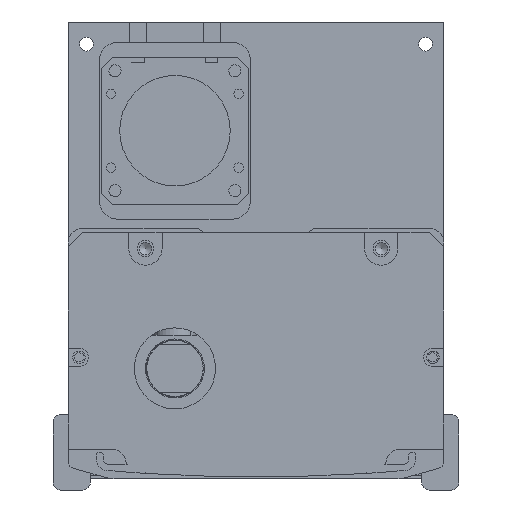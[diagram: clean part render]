
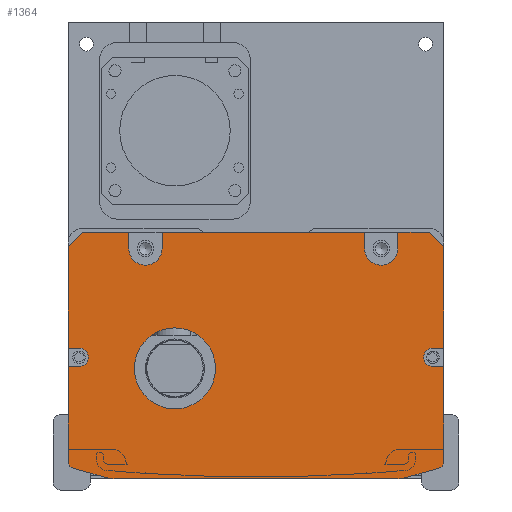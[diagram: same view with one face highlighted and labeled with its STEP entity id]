
A CAD part, front view. The second image highlights one B-rep face of the part: STEP entity #1364.
In plain terms, the highlighted planar face has unit normal (0, -1, 0).
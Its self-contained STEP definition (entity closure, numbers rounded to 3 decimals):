
#1364=ADVANCED_FACE('',(#4036,#4037),#2163,.F.);
#2163=PLANE('',#13208);
#2555=LINE('',#18918,#3317);
#2556=LINE('',#18921,#3318);
#2557=LINE('',#18923,#3319);
#2558=LINE('',#18925,#3320);
#2559=LINE('',#18929,#3321);
#2560=LINE('',#18931,#3322);
#2561=LINE('',#18933,#3323);
#2562=LINE('',#18937,#3324);
#2563=LINE('',#18939,#3325);
#2564=LINE('',#18941,#3326);
#2565=LINE('',#18943,#3327);
#2566=LINE('',#18945,#3328);
#2567=LINE('',#18949,#3329);
#2568=LINE('',#18951,#3330);
#2569=LINE('',#18955,#3331);
#2570=LINE('',#18959,#3332);
#2571=LINE('',#18963,#3333);
#2572=LINE('',#18967,#3334);
#2573=LINE('',#18969,#3335);
#2574=LINE('',#18973,#3336);
#3317=VECTOR('',#14979,1.);
#3318=VECTOR('',#14980,1.);
#3319=VECTOR('',#14981,1.);
#3320=VECTOR('',#14982,1.);
#3321=VECTOR('',#14985,1.);
#3322=VECTOR('',#14986,1.);
#3323=VECTOR('',#14987,1.);
#3324=VECTOR('',#14990,1.);
#3325=VECTOR('',#14991,1.);
#3326=VECTOR('',#14992,1.);
#3327=VECTOR('',#14993,1.);
#3328=VECTOR('',#14994,1.);
#3329=VECTOR('',#14997,1.);
#3330=VECTOR('',#14998,1.);
#3331=VECTOR('',#15001,1.);
#3332=VECTOR('',#15004,1.);
#3333=VECTOR('',#15007,1.);
#3334=VECTOR('',#15010,1.);
#3335=VECTOR('',#15011,1.);
#3336=VECTOR('',#15014,1.);
#4036=FACE_BOUND('',#4736,.T.);
#4037=FACE_BOUND('',#4737,.T.);
#4736=EDGE_LOOP('',(#6051,#6052,#6053,#6054,#6055,#6056,#6057,#6058,#6059,
#6060,#6061,#6062,#6063,#6064,#6065,#6066,#6067,#6068,#6069,#6070,#6071,
#6072,#6073,#6074,#6075,#6076,#6077,#6078));
#4737=EDGE_LOOP('',(#6079));
#6051=ORIENTED_EDGE('',*,*,#10779,.T.);
#6052=ORIENTED_EDGE('',*,*,#10780,.T.);
#6053=ORIENTED_EDGE('',*,*,#10781,.T.);
#6054=ORIENTED_EDGE('',*,*,#10782,.F.);
#6055=ORIENTED_EDGE('',*,*,#10783,.T.);
#6056=ORIENTED_EDGE('',*,*,#10784,.F.);
#6057=ORIENTED_EDGE('',*,*,#10785,.T.);
#6058=ORIENTED_EDGE('',*,*,#10786,.F.);
#6059=ORIENTED_EDGE('',*,*,#10787,.T.);
#6060=ORIENTED_EDGE('',*,*,#10788,.F.);
#6061=ORIENTED_EDGE('',*,*,#10789,.T.);
#6062=ORIENTED_EDGE('',*,*,#10790,.T.);
#6063=ORIENTED_EDGE('',*,*,#10791,.T.);
#6064=ORIENTED_EDGE('',*,*,#10792,.T.);
#6065=ORIENTED_EDGE('',*,*,#10793,.T.);
#6066=ORIENTED_EDGE('',*,*,#10794,.T.);
#6067=ORIENTED_EDGE('',*,*,#10795,.T.);
#6068=ORIENTED_EDGE('',*,*,#10796,.T.);
#6069=ORIENTED_EDGE('',*,*,#10797,.T.);
#6070=ORIENTED_EDGE('',*,*,#10798,.T.);
#6071=ORIENTED_EDGE('',*,*,#10799,.T.);
#6072=ORIENTED_EDGE('',*,*,#10800,.T.);
#6073=ORIENTED_EDGE('',*,*,#10801,.T.);
#6074=ORIENTED_EDGE('',*,*,#10802,.T.);
#6075=ORIENTED_EDGE('',*,*,#10803,.T.);
#6076=ORIENTED_EDGE('',*,*,#10804,.T.);
#6077=ORIENTED_EDGE('',*,*,#10805,.T.);
#6078=ORIENTED_EDGE('',*,*,#10806,.T.);
#6079=ORIENTED_EDGE('',*,*,#10807,.T.);
#9518=VERTEX_POINT('',#18919);
#9519=VERTEX_POINT('',#18920);
#9520=VERTEX_POINT('',#18922);
#9521=VERTEX_POINT('',#18924);
#9522=VERTEX_POINT('',#18926);
#9523=VERTEX_POINT('',#18928);
#9524=VERTEX_POINT('',#18930);
#9525=VERTEX_POINT('',#18932);
#9526=VERTEX_POINT('',#18934);
#9527=VERTEX_POINT('',#18936);
#9528=VERTEX_POINT('',#18938);
#9529=VERTEX_POINT('',#18940);
#9530=VERTEX_POINT('',#18942);
#9531=VERTEX_POINT('',#18944);
#9532=VERTEX_POINT('',#18946);
#9533=VERTEX_POINT('',#18948);
#9534=VERTEX_POINT('',#18950);
#9535=VERTEX_POINT('',#18952);
#9536=VERTEX_POINT('',#18954);
#9537=VERTEX_POINT('',#18956);
#9538=VERTEX_POINT('',#18958);
#9539=VERTEX_POINT('',#18960);
#9540=VERTEX_POINT('',#18962);
#9541=VERTEX_POINT('',#18964);
#9542=VERTEX_POINT('',#18966);
#9543=VERTEX_POINT('',#18968);
#9544=VERTEX_POINT('',#18970);
#9545=VERTEX_POINT('',#18972);
#9546=VERTEX_POINT('',#18975);
#10779=EDGE_CURVE('',#9518,#9519,#2555,.T.);
#10780=EDGE_CURVE('',#9519,#9520,#2556,.T.);
#10781=EDGE_CURVE('',#9520,#9521,#2557,.T.);
#10782=EDGE_CURVE('',#9522,#9521,#2558,.T.);
#10783=EDGE_CURVE('',#9522,#9523,#12418,.T.);
#10784=EDGE_CURVE('',#9524,#9523,#2559,.T.);
#10785=EDGE_CURVE('',#9524,#9525,#2560,.T.);
#10786=EDGE_CURVE('',#9526,#9525,#2561,.T.);
#10787=EDGE_CURVE('',#9526,#9527,#12419,.T.);
#10788=EDGE_CURVE('',#9528,#9527,#2562,.T.);
#10789=EDGE_CURVE('',#9528,#9529,#2563,.T.);
#10790=EDGE_CURVE('',#9529,#9530,#2564,.T.);
#10791=EDGE_CURVE('',#9530,#9531,#2565,.T.);
#10792=EDGE_CURVE('',#9531,#9532,#2566,.T.);
#10793=EDGE_CURVE('',#9532,#9533,#12420,.T.);
#10794=EDGE_CURVE('',#9533,#9534,#2567,.T.);
#10795=EDGE_CURVE('',#9534,#9535,#2568,.T.);
#10796=EDGE_CURVE('',#9535,#9536,#12421,.T.);
#10797=EDGE_CURVE('',#9536,#9537,#2569,.T.);
#10798=EDGE_CURVE('',#9537,#9538,#12422,.T.);
#10799=EDGE_CURVE('',#9538,#9539,#2570,.T.);
#10800=EDGE_CURVE('',#9539,#9540,#12423,.T.);
#10801=EDGE_CURVE('',#9540,#9541,#2571,.T.);
#10802=EDGE_CURVE('',#9541,#9542,#12424,.T.);
#10803=EDGE_CURVE('',#9542,#9543,#2572,.T.);
#10804=EDGE_CURVE('',#9543,#9544,#2573,.T.);
#10805=EDGE_CURVE('',#9544,#9545,#12425,.T.);
#10806=EDGE_CURVE('',#9545,#9518,#2574,.T.);
#10807=EDGE_CURVE('',#9546,#9546,#12426,.T.);
#12418=CIRCLE('',#13199,4.5);
#12419=CIRCLE('',#13200,4.5);
#12420=CIRCLE('',#13201,2.5);
#12421=CIRCLE('',#13202,2.);
#12422=CIRCLE('',#13203,10.);
#12423=CIRCLE('',#13204,10.);
#12424=CIRCLE('',#13205,2.);
#12425=CIRCLE('',#13206,2.5);
#12426=CIRCLE('',#13207,11.);
#13199=AXIS2_PLACEMENT_3D('',#18927,#14983,#14984);
#13200=AXIS2_PLACEMENT_3D('',#18935,#14988,#14989);
#13201=AXIS2_PLACEMENT_3D('',#18947,#14995,#14996);
#13202=AXIS2_PLACEMENT_3D('',#18953,#14999,#15000);
#13203=AXIS2_PLACEMENT_3D('',#18957,#15002,#15003);
#13204=AXIS2_PLACEMENT_3D('',#18961,#15005,#15006);
#13205=AXIS2_PLACEMENT_3D('',#18965,#15008,#15009);
#13206=AXIS2_PLACEMENT_3D('',#18971,#15012,#15013);
#13207=AXIS2_PLACEMENT_3D('',#18974,#15015,#15016);
#13208=AXIS2_PLACEMENT_3D('',#18976,#15017,#15018);
#14979=DIRECTION('',(0.,0.,1.));
#14980=DIRECTION('',(-0.707,0.,0.707));
#14981=DIRECTION('',(-1.,0.,0.));
#14982=DIRECTION('',(0.,0.,1.));
#14983=DIRECTION('',(0.,1.,0.));
#14984=DIRECTION('',(0.,0.,1.));
#14985=DIRECTION('',(0.,0.,-1.));
#14986=DIRECTION('',(-1.,0.,0.));
#14987=DIRECTION('',(0.,0.,1.));
#14988=DIRECTION('',(0.,1.,0.));
#14989=DIRECTION('',(0.,0.,1.));
#14990=DIRECTION('',(0.,0.,-1.));
#14991=DIRECTION('',(-1.,0.,0.));
#14992=DIRECTION('',(-0.707,0.,-0.707));
#14993=DIRECTION('',(0.,0.,-1.));
#14994=DIRECTION('',(1.,0.,0.));
#14995=DIRECTION('',(0.,1.,0.));
#14996=DIRECTION('',(0.,0.,1.));
#14997=DIRECTION('',(-1.,0.,0.));
#14998=DIRECTION('',(0.,0.,-1.));
#14999=DIRECTION('',(0.,-1.,0.));
#15000=DIRECTION('',(0.,0.,1.));
#15001=DIRECTION('',(0.963,0.,-0.269));
#15002=DIRECTION('',(0.,-1.,0.));
#15003=DIRECTION('',(0.,0.,1.));
#15004=DIRECTION('',(1.,0.,0.));
#15005=DIRECTION('',(0.,-1.,0.));
#15006=DIRECTION('',(0.,0.,-1.));
#15007=DIRECTION('',(0.963,0.,0.269));
#15008=DIRECTION('',(0.,-1.,0.));
#15009=DIRECTION('',(0.,0.,-1.));
#15010=DIRECTION('',(0.,0.,1.));
#15011=DIRECTION('',(-1.,0.,0.));
#15012=DIRECTION('',(0.,1.,0.));
#15013=DIRECTION('',(0.,0.,1.));
#15014=DIRECTION('',(1.,0.,0.));
#15015=DIRECTION('',(0.,1.,0.));
#15016=DIRECTION('',(0.,0.,1.));
#15017=DIRECTION('',(0.,1.,0.));
#15018=DIRECTION('',(-1.,0.,0.));
#18918=CARTESIAN_POINT('',(47.808,-617.5,-1.));
#18919=CARTESIAN_POINT('',(47.808,-617.5,-32.5));
#18920=CARTESIAN_POINT('',(47.808,-617.5,-5.));
#18921=CARTESIAN_POINT('',(43.808,-617.5,-1.));
#18922=CARTESIAN_POINT('',(43.808,-617.5,-1.));
#18923=CARTESIAN_POINT('',(-3.192,-617.5,-1.));
#18924=CARTESIAN_POINT('',(35.308,-617.5,-1.));
#18925=CARTESIAN_POINT('',(35.308,-617.5,-1.));
#18926=CARTESIAN_POINT('',(35.308,-617.5,-5.5));
#18927=CARTESIAN_POINT('',(30.808,-617.5,-5.5));
#18928=CARTESIAN_POINT('',(26.308,-617.5,-5.5));
#18929=CARTESIAN_POINT('',(26.308,-617.5,-1.));
#18930=CARTESIAN_POINT('',(26.308,-617.5,-1.));
#18931=CARTESIAN_POINT('',(-54.192,-617.5,-1.));
#18932=CARTESIAN_POINT('',(-28.692,-617.5,-1.));
#18933=CARTESIAN_POINT('',(-28.692,-617.5,-3.5));
#18934=CARTESIAN_POINT('',(-28.692,-617.5,-5.5));
#18935=CARTESIAN_POINT('',(-33.192,-617.5,-5.5));
#18936=CARTESIAN_POINT('',(-37.692,-617.5,-5.5));
#18937=CARTESIAN_POINT('',(-37.692,-617.5,-1.));
#18938=CARTESIAN_POINT('',(-37.692,-617.5,-1.));
#18939=CARTESIAN_POINT('',(-54.192,-617.5,-1.));
#18940=CARTESIAN_POINT('',(-50.192,-617.5,-1.));
#18941=CARTESIAN_POINT('',(-54.192,-617.5,-5.));
#18942=CARTESIAN_POINT('',(-54.192,-617.5,-5.));
#18943=CARTESIAN_POINT('',(-54.192,-617.5,-62.));
#18944=CARTESIAN_POINT('',(-54.192,-617.5,-32.5));
#18945=CARTESIAN_POINT('',(-3.192,-617.5,-32.5));
#18946=CARTESIAN_POINT('',(-51.192,-617.5,-32.5));
#18947=CARTESIAN_POINT('',(-51.192,-617.5,-35.));
#18948=CARTESIAN_POINT('',(-51.192,-617.5,-37.5));
#18949=CARTESIAN_POINT('',(-3.192,-617.5,-37.5));
#18950=CARTESIAN_POINT('',(-54.192,-617.5,-37.5));
#18951=CARTESIAN_POINT('',(-54.192,-617.5,-62.));
#18952=CARTESIAN_POINT('',(-54.192,-617.5,-63.212));
#18953=CARTESIAN_POINT('',(-52.192,-617.5,-63.212));
#18954=CARTESIAN_POINT('',(-52.731,-617.5,-65.138));
#18955=CARTESIAN_POINT('',(-55.807,-617.5,-64.279));
#18956=CARTESIAN_POINT('',(-43.809,-617.5,-67.631));
#18957=CARTESIAN_POINT('',(-41.118,-617.5,-58.));
#18958=CARTESIAN_POINT('',(-41.118,-617.5,-68.));
#18959=CARTESIAN_POINT('',(-54.692,-617.5,-68.));
#18960=CARTESIAN_POINT('',(34.733,-617.5,-68.));
#18961=CARTESIAN_POINT('',(34.733,-617.5,-58.));
#18962=CARTESIAN_POINT('',(37.424,-617.5,-67.631));
#18963=CARTESIAN_POINT('',(49.422,-617.5,-64.279));
#18964=CARTESIAN_POINT('',(46.346,-617.5,-65.138));
#18965=CARTESIAN_POINT('',(45.808,-617.5,-63.212));
#18966=CARTESIAN_POINT('',(47.808,-617.5,-63.212));
#18967=CARTESIAN_POINT('',(47.808,-617.5,-1.));
#18968=CARTESIAN_POINT('',(47.808,-617.5,-37.5));
#18969=CARTESIAN_POINT('',(-3.192,-617.5,-37.5));
#18970=CARTESIAN_POINT('',(44.808,-617.5,-37.5));
#18971=CARTESIAN_POINT('',(44.808,-617.5,-35.));
#18972=CARTESIAN_POINT('',(44.808,-617.5,-32.5));
#18973=CARTESIAN_POINT('',(-3.192,-617.5,-32.5));
#18974=CARTESIAN_POINT('',(-25.192,-617.5,-38.));
#18975=CARTESIAN_POINT('',(-25.192,-617.5,-27.));
#18976=CARTESIAN_POINT('',(-3.192,-617.5,-1.));
